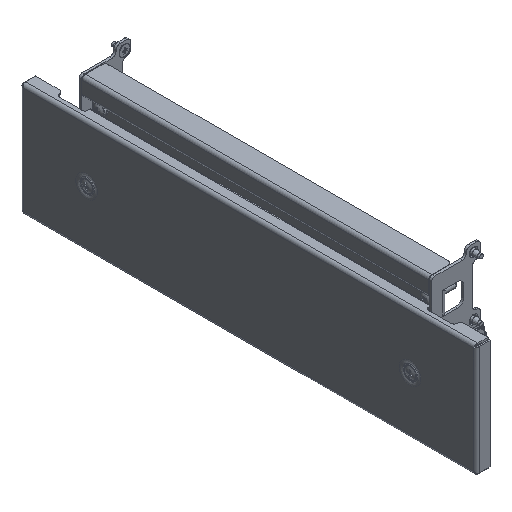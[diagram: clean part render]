
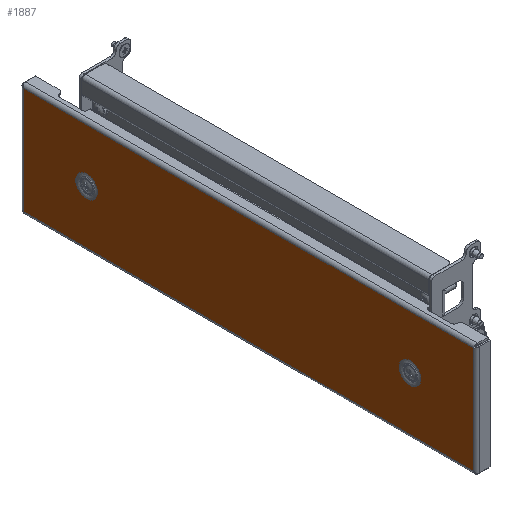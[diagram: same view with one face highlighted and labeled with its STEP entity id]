
A CAD part, isometric view. The second image highlights one B-rep face of the part: STEP entity #1887.
In plain terms, the highlighted planar face has unit normal (-1, 0, 0).
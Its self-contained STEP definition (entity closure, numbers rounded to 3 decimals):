
#1887=ADVANCED_FACE('',(#3920,#3922,#3924),#3926,.F.);
#3920=FACE_BOUND('',#3921,.T.);
#3921=EDGE_LOOP('',(#11593,#11594,#11595,#11596));
#3922=FACE_BOUND('',#3923,.T.);
#3923=EDGE_LOOP('',(#11597));
#3924=FACE_BOUND('',#3925,.T.);
#3925=EDGE_LOOP('',(#11598));
#3926=PLANE('',#3927);
#3927=AXIS2_PLACEMENT_3D('',#3928,#3929,#3930);
#3928=CARTESIAN_POINT('',(0.,0.,0.));
#3929=DIRECTION('',(1.,0.,0.));
#3930=DIRECTION('',(0.,1.,0.));
#11593=ORIENTED_EDGE('',*,*,#14269,.T.);
#11594=ORIENTED_EDGE('',*,*,#14270,.T.);
#11595=ORIENTED_EDGE('',*,*,#14271,.T.);
#11596=ORIENTED_EDGE('',*,*,#14272,.T.);
#11597=ORIENTED_EDGE('',*,*,#14273,.T.);
#11598=ORIENTED_EDGE('',*,*,#14274,.T.);
#14269=EDGE_CURVE('',#15669,#15670,#15671,.T.);
#14270=EDGE_CURVE('',#15670,#15672,#15673,.T.);
#14271=EDGE_CURVE('',#15672,#15674,#15675,.T.);
#14272=EDGE_CURVE('',#15674,#15669,#15676,.T.);
#14273=EDGE_CURVE('',#15677,#15677,#15678,.T.);
#14274=EDGE_CURVE('',#15679,#15679,#15680,.T.);
#15669=VERTEX_POINT('',#18056);
#15670=VERTEX_POINT('',#18057);
#15671=LINE('',#18058,#18059);
#15672=VERTEX_POINT('',#18061);
#15673=LINE('',#18062,#18063);
#15674=VERTEX_POINT('',#18065);
#15675=LINE('',#18066,#18067);
#15676=LINE('',#18069,#18070);
#15677=VERTEX_POINT('',#18072);
#15678=CIRCLE('',#18073,9.25);
#15679=VERTEX_POINT('',#18077);
#15680=CIRCLE('',#18078,9.25);
#18056=CARTESIAN_POINT('',(0.,192.7,45.7));
#18057=CARTESIAN_POINT('',(0.,192.7,-45.7));
#18058=CARTESIAN_POINT('',(0.,192.7,45.7));
#18059=VECTOR('',#18060,1.);
#18060=DIRECTION('',(0.,0.,-1.));
#18061=CARTESIAN_POINT('',(0.,-192.7,-45.7));
#18062=CARTESIAN_POINT('',(0.,192.7,-45.7));
#18063=VECTOR('',#18064,1.);
#18064=DIRECTION('',(0.,-1.,0.));
#18065=CARTESIAN_POINT('',(0.,-192.7,45.7));
#18066=CARTESIAN_POINT('',(0.,-192.7,-45.7));
#18067=VECTOR('',#18068,1.);
#18068=DIRECTION('',(0.,0.,1.));
#18069=CARTESIAN_POINT('',(0.,-192.7,45.7));
#18070=VECTOR('',#18071,1.);
#18071=DIRECTION('',(0.,1.,0.));
#18072=CARTESIAN_POINT('',(0.,147.75,0.));
#18073=AXIS2_PLACEMENT_3D('',#18074,#18075,#18076);
#18074=CARTESIAN_POINT('',(0.,138.5,0.));
#18075=DIRECTION('',(1.,0.,0.));
#18076=DIRECTION('',(0.,1.,0.));
#18077=CARTESIAN_POINT('',(0.,-129.25,0.));
#18078=AXIS2_PLACEMENT_3D('',#18079,#18080,#18081);
#18079=CARTESIAN_POINT('',(0.,-138.5,0.));
#18080=DIRECTION('',(1.,0.,0.));
#18081=DIRECTION('',(0.,1.,0.));
